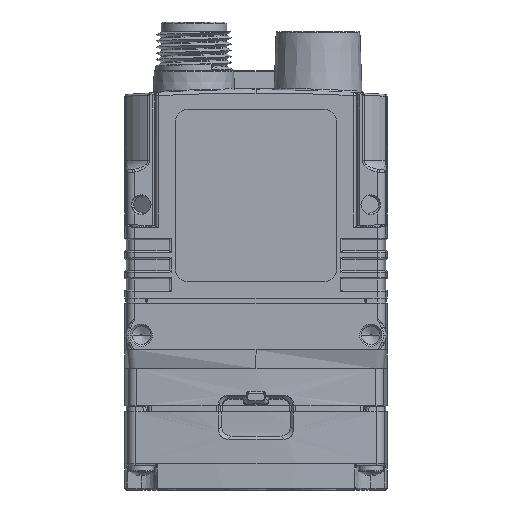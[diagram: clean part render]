
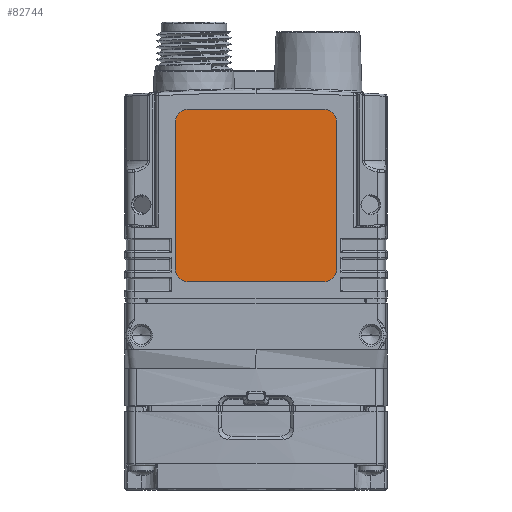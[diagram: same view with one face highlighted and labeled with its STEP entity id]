
A CAD part, front view. The second image highlights one B-rep face of the part: STEP entity #82744.
In plain terms, the highlighted planar face has unit normal (0, -1, 0).
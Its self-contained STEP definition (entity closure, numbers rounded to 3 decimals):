
#714 = ORIENTED_EDGE ( 'NONE', *, *, #4434, .T. ) ;
#1144 = EDGE_CURVE ( 'NONE', #12004, #135924, #17350, .T. ) ;
#1210 = CARTESIAN_POINT ( 'NONE',  ( 0., -10.9, 47.768 ) ) ;
#4434 = EDGE_CURVE ( 'NONE', #151624, #145041, #150110, .T. ) ;
#8109 = PLANE ( 'NONE',  #57535 ) ;
#12004 = VERTEX_POINT ( 'NONE', #111619 ) ;
#12100 = CARTESIAN_POINT ( 'NONE',  ( -10.929, -10.9, 45.696 ) ) ;
#17350 = LINE ( 'NONE', #127889, #87786 ) ;
#22645 = ORIENTED_EDGE ( 'NONE', *, *, #152301, .F. ) ;
#23665 = ORIENTED_EDGE ( 'NONE', *, *, #85126, .F. ) ;
#23941 = CARTESIAN_POINT ( 'NONE',  ( 13., -10.9, 45.696 ) ) ;
#24622 = ORIENTED_EDGE ( 'NONE', *, *, #47496, .F. ) ;
#25394 = VECTOR ( 'NONE', #137580, 1000. ) ;
#27967 = DIRECTION ( 'NONE',  ( 0., -1., 0. ) ) ;
#30212 = CIRCLE ( 'NONE', #125376, 2.071 ) ;
#32393 = DIRECTION ( 'NONE',  ( 0., 0., -1. ) ) ;
#36556 = CARTESIAN_POINT ( 'NONE',  ( -13., -10.9, 45.696 ) ) ;
#38060 = DIRECTION ( 'NONE',  ( -1., 0., 0. ) ) ;
#39530 = VERTEX_POINT ( 'NONE', #106832 ) ;
#43215 = DIRECTION ( 'NONE',  ( 1., 0., 0. ) ) ;
#44180 = FACE_OUTER_BOUND ( 'NONE', #100304, .T. ) ;
#47496 = EDGE_CURVE ( 'NONE', #12004, #39530, #30212, .T. ) ;
#48716 = VERTEX_POINT ( 'NONE', #36556 ) ;
#49004 = DIRECTION ( 'NONE',  ( 0., 0., -1. ) ) ;
#50436 = VECTOR ( 'NONE', #50979, 1000. ) ;
#50979 = DIRECTION ( 'NONE',  ( 0., 0., 1. ) ) ;
#55239 = CARTESIAN_POINT ( 'NONE',  ( 13., -10.9, 0. ) ) ;
#55767 = ORIENTED_EDGE ( 'NONE', *, *, #1144, .T. ) ;
#56906 = ORIENTED_EDGE ( 'NONE', *, *, #64507, .T. ) ;
#57535 = AXIS2_PLACEMENT_3D ( 'NONE', #80262, #27967, #32393 ) ;
#58670 = VECTOR ( 'NONE', #38060, 1000. ) ;
#64507 = EDGE_CURVE ( 'NONE', #138572, #104788, #144770, .T. ) ;
#68647 = CARTESIAN_POINT ( 'NONE',  ( 10.929, -10.9, 19.994 ) ) ;
#72618 = DIRECTION ( 'NONE',  ( 0., 0., -1. ) ) ;
#73603 = CARTESIAN_POINT ( 'NONE',  ( 10.929, -10.9, 22.065 ) ) ;
#80262 = CARTESIAN_POINT ( 'NONE',  ( 0., -10.9, 0. ) ) ;
#80433 = CARTESIAN_POINT ( 'NONE',  ( 13., -10.9, 22.065 ) ) ;
#82744 = ADVANCED_FACE ( 'NONE', ( #44180 ), #8109, .T. ) ;
#84394 = CARTESIAN_POINT ( 'NONE',  ( -10.929, -10.9, 22.065 ) ) ;
#85126 = EDGE_CURVE ( 'NONE', #39530, #48716, #121545, .T. ) ;
#86126 = DIRECTION ( 'NONE',  ( 0., 0., -1. ) ) ;
#87786 = VECTOR ( 'NONE', #43215, 1000. ) ;
#91706 = CARTESIAN_POINT ( 'NONE',  ( 10.929, -10.9, 47.768 ) ) ;
#95682 = CIRCLE ( 'NONE', #120770, 2.071 ) ;
#96579 = CIRCLE ( 'NONE', #116630, 2.071 ) ;
#97050 = AXIS2_PLACEMENT_3D ( 'NONE', #12100, #108575, #49004 ) ;
#97684 = DIRECTION ( 'NONE',  ( 0., 1., 0. ) ) ;
#100304 = EDGE_LOOP ( 'NONE', ( #714, #132948, #56906, #22645, #23665, #24622, #55767, #122422 ) ) ;
#101129 = EDGE_CURVE ( 'NONE', #145041, #138572, #95682, .T. ) ;
#102916 = DIRECTION ( 'NONE',  ( 0., -1., 0. ) ) ;
#104788 = VERTEX_POINT ( 'NONE', #141096 ) ;
#106832 = CARTESIAN_POINT ( 'NONE',  ( -13., -10.9, 22.065 ) ) ;
#108575 = DIRECTION ( 'NONE',  ( 0., 1., 0. ) ) ;
#108984 = CARTESIAN_POINT ( 'NONE',  ( -13., -10.9, 0. ) ) ;
#111619 = CARTESIAN_POINT ( 'NONE',  ( -10.929, -10.9, 19.994 ) ) ;
#114545 = CIRCLE ( 'NONE', #97050, 2.071 ) ;
#116630 = AXIS2_PLACEMENT_3D ( 'NONE', #73603, #145754, #86126 ) ;
#120770 = AXIS2_PLACEMENT_3D ( 'NONE', #123360, #102916, #124902 ) ;
#121545 = LINE ( 'NONE', #108984, #50436 ) ;
#122422 = ORIENTED_EDGE ( 'NONE', *, *, #134500, .T. ) ;
#123360 = CARTESIAN_POINT ( 'NONE',  ( 10.929, -10.9, 45.696 ) ) ;
#124902 = DIRECTION ( 'NONE',  ( 0., 0., -1. ) ) ;
#125376 = AXIS2_PLACEMENT_3D ( 'NONE', #84394, #97684, #72618 ) ;
#127889 = CARTESIAN_POINT ( 'NONE',  ( 0., -10.9, 19.994 ) ) ;
#132948 = ORIENTED_EDGE ( 'NONE', *, *, #101129, .T. ) ;
#134500 = EDGE_CURVE ( 'NONE', #135924, #151624, #96579, .T. ) ;
#135924 = VERTEX_POINT ( 'NONE', #68647 ) ;
#137580 = DIRECTION ( 'NONE',  ( 0., 0., 1. ) ) ;
#138572 = VERTEX_POINT ( 'NONE', #91706 ) ;
#141096 = CARTESIAN_POINT ( 'NONE',  ( -10.929, -10.9, 47.768 ) ) ;
#144770 = LINE ( 'NONE', #1210, #58670 ) ;
#145041 = VERTEX_POINT ( 'NONE', #23941 ) ;
#145754 = DIRECTION ( 'NONE',  ( 0., -1., 0. ) ) ;
#150110 = LINE ( 'NONE', #55239, #25394 ) ;
#151624 = VERTEX_POINT ( 'NONE', #80433 ) ;
#152301 = EDGE_CURVE ( 'NONE', #48716, #104788, #114545, .T. ) ;
